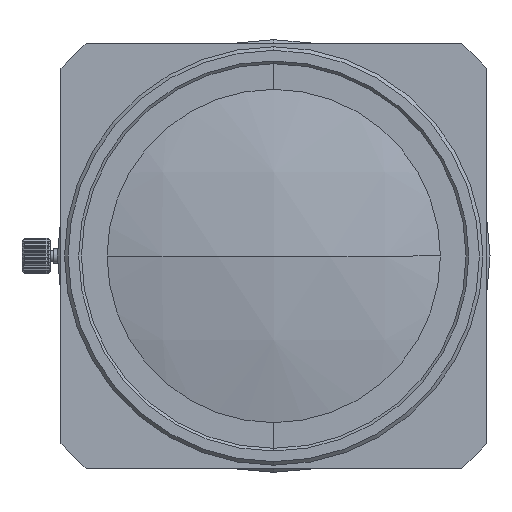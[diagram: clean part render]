
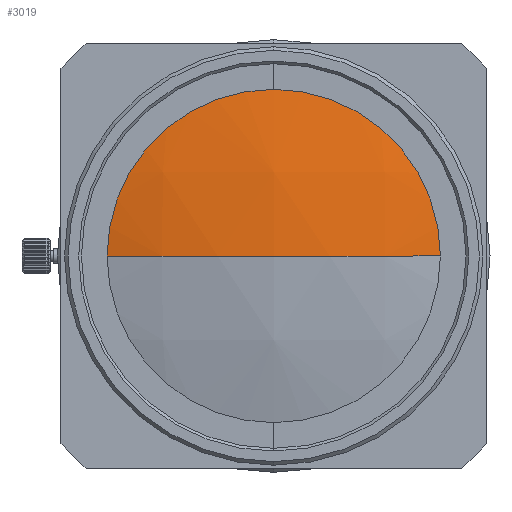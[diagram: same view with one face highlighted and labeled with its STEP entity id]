
A CAD part, left-side view. The second image highlights one B-rep face of the part: STEP entity #3019.
In plain terms, the highlighted spherical face has radius 95 mm.
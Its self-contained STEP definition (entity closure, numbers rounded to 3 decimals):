
#322 = CARTESIAN_POINT ( 'NONE',  ( -183.978, 0., 0. ) ) ;
#685 = DIRECTION ( 'NONE',  ( 1., 0., 0. ) ) ;
#1063 = DIRECTION ( 'NONE',  ( 0., 0., -1. ) ) ;
#1180 = DIRECTION ( 'NONE',  ( 0., 0., -1. ) ) ;
#1261 = AXIS2_PLACEMENT_3D ( 'NONE', #4986, #685, #1180 ) ;
#1377 = ORIENTED_EDGE ( 'NONE', *, *, #3800, .F. ) ;
#1392 = AXIS2_PLACEMENT_3D ( 'NONE', #322, #3468, #1624 ) ;
#1475 = CARTESIAN_POINT ( 'NONE',  ( -276.025, 0., 23.5 ) ) ;
#1562 = CARTESIAN_POINT ( 'NONE',  ( -183.978, 0., 0. ) ) ;
#1624 = DIRECTION ( 'NONE',  ( 0., -1., 0. ) ) ;
#2044 = AXIS2_PLACEMENT_3D ( 'NONE', #1562, #1063, #2253 ) ;
#2250 = SPHERICAL_SURFACE ( 'NONE', #2959, 95. ) ;
#2253 = DIRECTION ( 'NONE',  ( -1., 0., 0. ) ) ;
#2291 = DIRECTION ( 'NONE',  ( 0., 0., 1. ) ) ;
#2447 = AXIS2_PLACEMENT_3D ( 'NONE', #6313, #7003, #5775 ) ;
#2959 = AXIS2_PLACEMENT_3D ( 'NONE', #7889, #2291, #4055 ) ;
#3019 = ADVANCED_FACE ( 'NONE', ( #7848 ), #2250, .T. ) ;
#3468 = DIRECTION ( 'NONE',  ( 0., 0., 1. ) ) ;
#3614 = CIRCLE ( 'NONE', #1392, 95. ) ;
#3664 = VERTEX_POINT ( 'NONE', #1475 ) ;
#3736 = ORIENTED_EDGE ( 'NONE', *, *, #3948, .F. ) ;
#3800 = EDGE_CURVE ( 'NONE', #5281, #4753, #7520, .T. ) ;
#3852 = CARTESIAN_POINT ( 'NONE',  ( -276.025, -23.5, 0. ) ) ;
#3917 = CARTESIAN_POINT ( 'NONE',  ( -278.978, 0., 0. ) ) ;
#3948 = EDGE_CURVE ( 'NONE', #3664, #7365, #6870, .T. ) ;
#4055 = DIRECTION ( 'NONE',  ( 0., 1., 0. ) ) ;
#4753 = VERTEX_POINT ( 'NONE', #5770 ) ;
#4986 = CARTESIAN_POINT ( 'NONE',  ( -276.025, 0., 0. ) ) ;
#5281 = VERTEX_POINT ( 'NONE', #3917 ) ;
#5283 = ORIENTED_EDGE ( 'NONE', *, *, #6325, .F. ) ;
#5395 = EDGE_CURVE ( 'NONE', #5281, #7365, #3614, .T. ) ;
#5770 = CARTESIAN_POINT ( 'NONE',  ( -276.025, 23.5, 0. ) ) ;
#5775 = DIRECTION ( 'NONE',  ( 0., 0., -1. ) ) ;
#5974 = CIRCLE ( 'NONE', #2447, 23.5 ) ;
#6313 = CARTESIAN_POINT ( 'NONE',  ( -276.025, 0., 0. ) ) ;
#6325 = EDGE_CURVE ( 'NONE', #4753, #3664, #5974, .T. ) ;
#6870 = CIRCLE ( 'NONE', #1261, 23.5 ) ;
#7003 = DIRECTION ( 'NONE',  ( 1., 0., 0. ) ) ;
#7365 = VERTEX_POINT ( 'NONE', #3852 ) ;
#7455 = EDGE_LOOP ( 'NONE', ( #1377, #7630, #3736, #5283 ) ) ;
#7520 = CIRCLE ( 'NONE', #2044, 95. ) ;
#7630 = ORIENTED_EDGE ( 'NONE', *, *, #5395, .T. ) ;
#7848 = FACE_OUTER_BOUND ( 'NONE', #7455, .T. ) ;
#7889 = CARTESIAN_POINT ( 'NONE',  ( -183.978, 0., 0. ) ) ;
